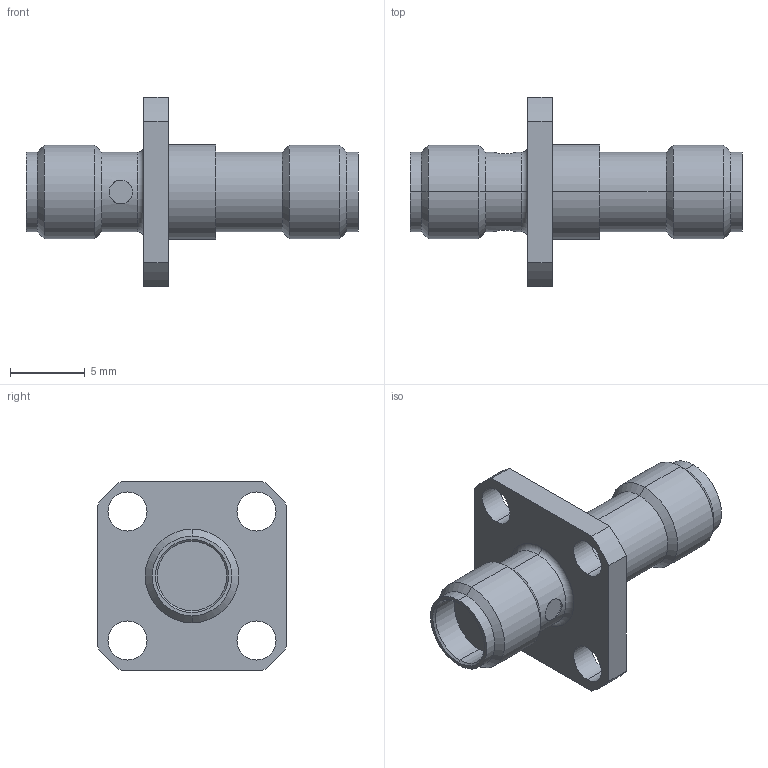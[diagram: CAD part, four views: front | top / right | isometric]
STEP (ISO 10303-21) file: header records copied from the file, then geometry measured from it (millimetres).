
FILE_DESCRIPTION (( 'STEP AP214' ), '1' );
FILE_NAME ('SF2991-6007.STEP', '2016-08-22T13:06:03', ( '' ), ( '' ), 'SwSTEP 2.0', 'SolidWorks 2015', '' );
FILE_SCHEMA (( 'AUTOMOTIVE_DESIGN' ));
Length unit declared in the file: inch
Products named in the file (2): SF2991-6007
Bounding box: 22.23 x 12.7 x 12.7 mm (x, y, z)
Volume: 711.8 mm3; surface area: 845.4 mm2
Topology: 1 solids, 1 shells, 61 faces, 134 edges, 82 vertices
Faces by surface type: cylinder 34, plane 13, cone 12, torus 2
Entity records: 2578 total; most frequent: CARTESIAN_POINT 343, DIRECTION 328, ORIENTED_EDGE 268, AXIS2_PLACEMENT_3D 135, EDGE_CURVE 134, VERTEX_POINT 82, EDGE_LOOP 76, CIRCLE 72
